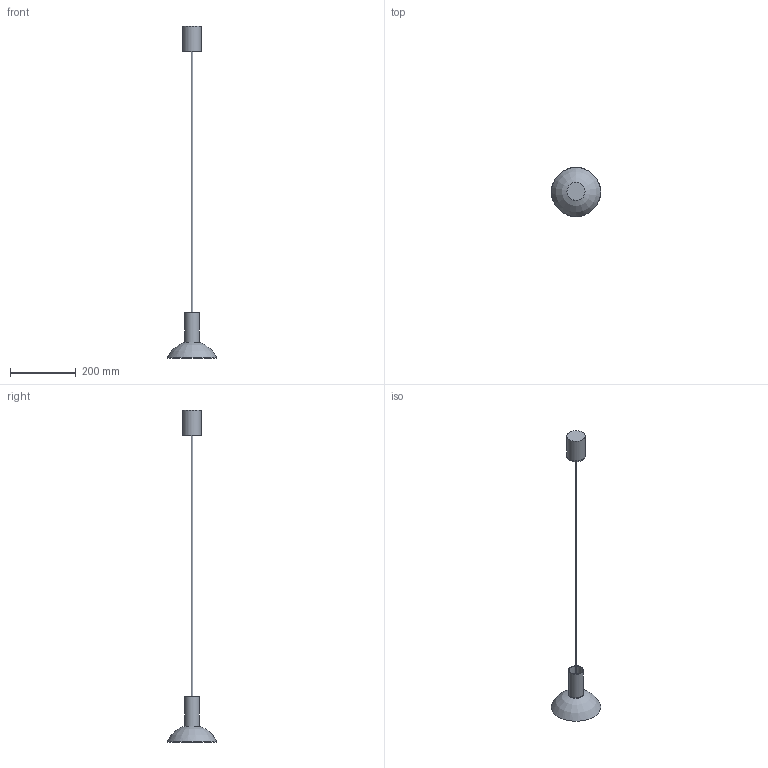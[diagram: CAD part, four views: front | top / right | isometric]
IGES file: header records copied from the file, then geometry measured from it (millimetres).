
Start section: SolidWorks IGES file using analytic representation for surfaces
Global section: file name: X:\PRODUKT\Modele 3D_WWW\_KOLEKCJE WWW\HERMANOS\8194\HERMANOS-I-8194.IGS; native system: SolidWorks 2021; preprocessor: SolidWorks 2021; author: gabriela.tworek; date: 220912.101846; units: millimetre
Bounding box: 150 x 150 x 1008.29 mm (x, y, z)
Surface area: 113284.2 mm2 (no closed solid volume)
Topology: 0 solids, 0 shells, 25 faces, 60 edges, 45 vertices
Faces by surface type: revolution 15, bspline 10
